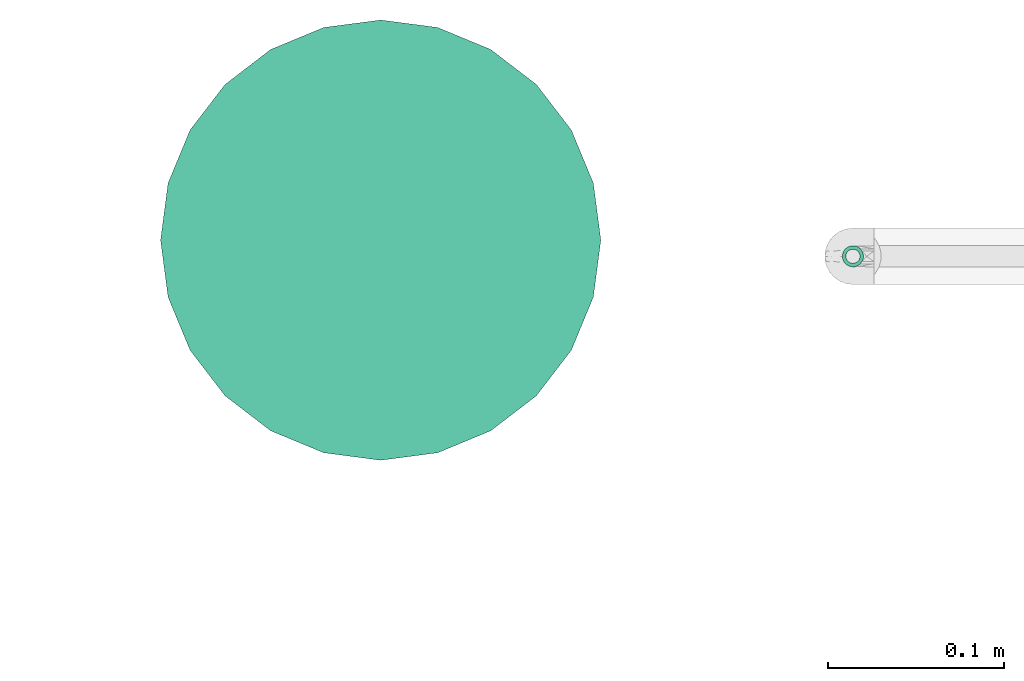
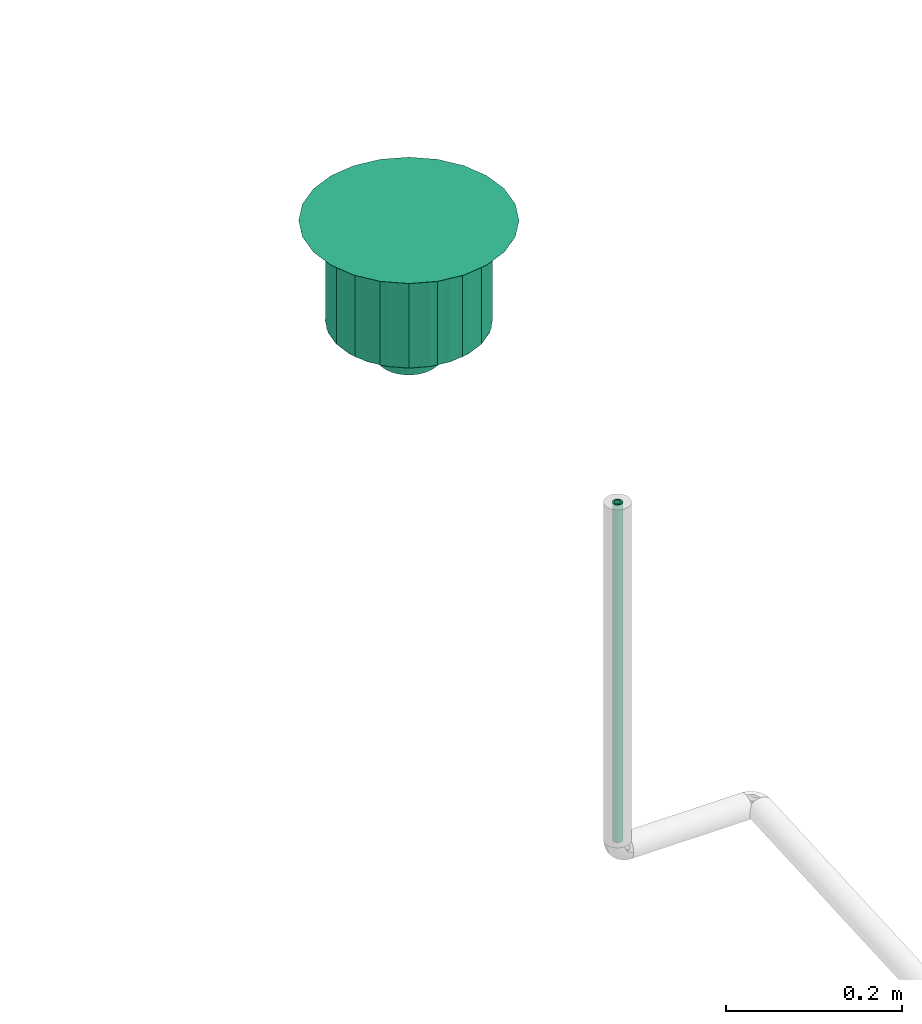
# One storey, part 60 of 108: 1 flow segment, 1 flow terminal.
"""IFC2X3 building model written with IfcOpenShell, lengths in millimetres."""

from ifc_helpers import new_model, entity, si_unit, converted_unit, derived_unit, direction, frame, origin_with_axes, origin_2d_with_axis, place, context, subcontext, project, spatial, hollow_circle, extrude, open_shell, surface_model, source, transform, mapped, type_object, element, save


model = new_model("IFC2X3")

# Units and contexts
model_context = context("Model", 3, precision=0.01, world=frame((0.0, 4.29681676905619e-09, 0.0)), true_north=direction((4.01073788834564e-13, 1.0)))
plan_context = context("Plan", 3, precision=0.01, world=frame((0.0, 4.29681676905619e-09, 0.0)), true_north=direction((4.01073788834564e-13, 1.0)))
body_context = subcontext(model_context, "Body", "Model", "MODEL_VIEW")
ifc_project = project(units=[converted_unit("PLANEANGLEUNIT", "DEGREE", entity("IfcPositiveLengthMeasure", 0.0174532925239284), si_unit("PLANEANGLEUNIT", "RADIAN"), dimensions=[0, 0, 0, 0, 0, 0, 0]), si_unit("AREAUNIT", "SQUARE_METRE"), si_unit("LENGTHUNIT", "METRE", prefix="MILLI"), si_unit("MASSUNIT", "GRAM", prefix="KILO"), si_unit("POWERUNIT", "WATT"), si_unit("PRESSUREUNIT", "PASCAL", prefix="KILO"), si_unit("FORCEUNIT", "NEWTON", prefix="KILO"), si_unit("ELECTRICVOLTAGEUNIT", "VOLT"), si_unit("ELECTRICCURRENTUNIT", "AMPERE"), si_unit("THERMODYNAMICTEMPERATUREUNIT", "DEGREE_CELSIUS"), si_unit("TIMEUNIT", "SECOND"), si_unit("VOLUMEUNIT", "CUBIC_METRE"), derived_unit("LINEARVELOCITYUNIT", [(si_unit("LENGTHUNIT", "METRE"), 1), (si_unit("TIMEUNIT", "SECOND"), -1)]), derived_unit("VOLUMETRICFLOWRATEUNIT", [(si_unit("VOLUMEUNIT", "CUBIC_METRE"), 1), (si_unit("TIMEUNIT", "SECOND"), -1)]), derived_unit("THERMALTRANSMITTANCEUNIT", [(si_unit("POWERUNIT", "WATT"), 1), (si_unit("THERMODYNAMICTEMPERATUREUNIT", "KELVIN"), -1), (si_unit("AREAUNIT", "SQUARE_METRE"), -1)]), derived_unit("SOUNDPRESSUREUNIT", [(si_unit("PRESSUREUNIT", "PASCAL"), 1)])], contexts=[model_context, plan_context])

# Site, building, storey
site_placement = place(None, frame((0.0, -4.29681676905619e-09, 0.0), z_axis=(0.0, 0.0, 1.0), x_axis=(1.0, 0.0, 0.0)))
site = spatial("IfcSite", under=ifc_project, at=site_placement, CompositionType="ELEMENT")
building_placement = place(site_placement, frame((0.0, 4.29681676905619e-09, 0.0), z_axis=(0.0, 0.0, 1.0), x_axis=(1.0, 0.0, 0.0)))
building = spatial("IfcBuilding", under=site, at=building_placement, Name="mc-building", CompositionType="ELEMENT")
storey_placement = place(building_placement, frame((0.0, 0.0, 210200.0), z_axis=(0.0, 0.0, 1.0), x_axis=(1.0, 0.0, 0.0)))
storey = spatial("IfcBuildingStorey", under=building, at=storey_placement, Name="Nivå F - 0,7 m", CompositionType="ELEMENT", Elevation=210200.0)

# Flow segment
pipe_segment_type = type_object("IfcPipeSegmentType", Name="Kobberrør", PredefinedType="RIGIDSEGMENT")
shared_shape_1 = source(origin_with_axes(), body_context, "Body", "SweptSolid", [
    extrude(hollow_circle(Radius=6.0, WallThickness=2.0, at=origin_2d_with_axis()), frame((0.0, 0.0, 0.0), z_axis=(1.0, 0.0, 0.0), x_axis=(0.0, 1.0, 0.0)), (0.0, 0.0, 1.0), 468.0),
])
flow_segment_placement = place(storey_placement, frame((341354.44567, 466090.75941, -936.073130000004), z_axis=(1.0, 0.0, 0.0), x_axis=(0.0, 0.0, 1.0)))
element("IfcFlowSegment", 1, at=flow_segment_placement, inside=storey, type_object=pipe_segment_type, Name="Kobberrør", context=body_context, shape_type="MappedRepresentation", body=[
    mapped(shared_shape_1, transform((0.0, 0.0, 0.0), scale=1.0)),
])

# Flow terminal
waste_terminal_type = type_object("IfcWasteTerminalType", Name="B21", PredefinedType="NOTDEFINED")
shared_shape_2 = source(origin_with_axes(), body_context, "Body", "SurfaceModel", [
    surface_model("IfcShellBasedSurfaceModel", [(24.58781, -91.76295, 0.1), (47.5, -82.27241, 0.1), (67.17514, -67.17514, 0.1), (-91.76295, -24.58781, 0.1), (82.27241, -47.5, 0.1), (91.76295, -24.58781, 0.1), (95.0, 0.0, 0.1), (0.0, -95.0, 0.1), (-47.5, -82.27241, 0.1), (-24.58781, -91.76295, 0.1), (-67.17514, -67.17514, 0.1), (-82.27241, -47.5, 0.1), (-91.76295, 24.58781, 0.1), (91.76295, 24.58781, 0.1), (82.27241, 47.5, 0.1), (67.17514, 67.17514, 0.1), (47.5, 82.27241, 0.1), (24.58781, 91.76295, 0.1), (0.0, 95.0, 0.1), (-67.17514, 67.17514, 0.1), (-82.27241, 47.5, 0.1), (-95.0, 0.0, 0.1), (-24.58781, 91.76295, 0.1), (-47.5, 82.27241, 0.1), (0.0, 95.0, -0.1), (24.58781, 91.76295, -0.1), (47.5, 82.27241, -0.1), (67.17514, 67.17514, -0.1), (82.27241, 47.5, -0.1), (91.76295, 24.58781, -0.1), (-24.58781, 91.76295, -0.1), (-67.17514, 67.17514, -0.1), (-47.5, 82.27241, -0.1), (-91.76295, 24.58781, -0.1), (-82.27241, 47.5, -0.1), (95.0, 0.0, -0.1), (67.17514, -67.17514, -0.1), (-95.0, 0.0, -0.1), (91.76295, -24.58781, -0.1), (82.27241, -47.5, -0.1), (47.5, -82.27241, -0.1), (24.58781, -91.76295, -0.1), (0.0, -95.0, -0.1), (-82.27241, -47.5, -0.1), (-91.76295, -24.58781, -0.1), (-67.17514, -67.17514, -0.1), (-47.5, -82.27241, -0.1), (-24.58781, -91.76295, -0.1), (-62.5, 108.25318, 0.1), (-88.38835, 88.38835, 0.1), (-32.35238, 120.74073, 0.1), (0.0, 125.0, 0.1), (-108.25318, 62.5, 0.1), (-120.74073, 32.35238, 0.1), (-125.0, 0.0, 0.1), (32.35238, 120.74073, 0.1), (88.38835, 88.38835, 0.1), (62.5, 108.25318, 0.1), (108.25318, 62.5, 0.1), (120.74073, 32.35238, 0.1), (125.0, 0.0, 0.1), (-120.74073, -32.35238, 0.1), (-108.25318, -62.5, 0.1), (-88.38835, -88.38835, 0.1), (-62.5, -108.25318, 0.1), (-32.35238, -120.74073, 0.1), (0.0, -125.0, 0.1), (108.25318, -62.5, 0.1), (88.38835, -88.38835, 0.1), (120.74073, -32.35238, 0.1), (32.35238, -120.74073, 0.1), (62.5, -108.25318, 0.1), (-62.5, -108.25318, -0.1), (-88.38835, -88.38835, -0.1), (-32.35238, -120.74073, -0.1), (0.0, -125.0, -0.1), (-108.25318, -62.5, -0.1), (-120.74073, -32.35238, -0.1), (-125.0, 0.0, -0.1), (32.35238, -120.74073, -0.1), (88.38835, -88.38835, -0.1), (62.5, -108.25318, -0.1), (108.25318, -62.5, -0.1), (120.74073, -32.35238, -0.1), (125.0, 0.0, -0.1), (-120.74073, 32.35238, -0.1), (-108.25318, 62.5, -0.1), (-88.38835, 88.38835, -0.1), (-62.5, 108.25318, -0.1), (-32.35238, 120.74073, -0.1), (0.0, 125.0, -0.1), (108.25318, 62.5, -0.1), (88.38835, 88.38835, -0.1), (120.74073, 32.35238, -0.1), (32.35238, 120.74073, -0.1), (62.5, 108.25318, -0.1), (24.58781, -91.76295, -137.9), (47.5, -82.27241, -137.9), (67.17514, -67.17514, -137.9), (-91.76295, -24.58781, -137.9), (82.27241, -47.5, -137.9), (91.76295, -24.58781, -137.9), (95.0, 0.0, -137.9), (0.0, -95.0, -137.9), (-47.5, -82.27241, -137.9), (-24.58781, -91.76295, -137.9), (-67.17514, -67.17514, -137.9), (-82.27241, -47.5, -137.9), (-91.76295, 24.58781, -137.9), (91.76295, 24.58781, -137.9), (82.27241, 47.5, -137.9), (67.17514, 67.17514, -137.9), (47.5, 82.27241, -137.9), (24.58781, 91.76295, -137.9), (0.0, 95.0, -137.9), (-67.17514, 67.17514, -137.9), (-82.27241, 47.5, -137.9), (-95.0, 0.0, -137.9), (-24.58781, 91.76295, -137.9), (-47.5, 82.27241, -137.9), (0.0, 95.0, -138.1), (24.58781, 91.76295, -138.1), (47.5, 82.27241, -138.1), (67.17514, 67.17514, -138.1), (82.27241, 47.5, -138.1), (91.76295, 24.58781, -138.1), (-24.58781, 91.76295, -138.1), (-67.17514, 67.17514, -138.1), (-47.5, 82.27241, -138.1), (-91.76295, 24.58781, -138.1), (-82.27241, 47.5, -138.1), (95.0, 0.0, -138.1), (67.17514, -67.17514, -138.1), (-95.0, 0.0, -138.1), (91.76295, -24.58781, -138.1), (82.27241, -47.5, -138.1), (47.5, -82.27241, -138.1), (24.58781, -91.76295, -138.1), (0.0, -95.0, -138.1), (-82.27241, -47.5, -138.1), (-91.76295, -24.58781, -138.1), (-67.17514, -67.17514, -138.1), (-47.5, -82.27241, -138.1), (-24.58781, -91.76295, -138.1), (-85.74428, -38.60004, 0.0), (-90.0094, -28.30311, 0.0), (-89.2708, -32.49191, 0.0), (-43.22826, 83.8272, 0.0), (-47.5, 82.27241, 0.0), (-47.4, 82.0992, 0.0), (-50.98236, 79.35037, 0.0), (-94.21061, 4.47683, 0.0), (-95.0, 0.0, 0.0), (-94.8, 0.0, 0.0), (-82.0992, -47.4, 0.0), (-76.30075, -54.9567, 0.0), (43.22826, 83.8272, 0.0), (47.4, 82.0992, 0.0), (47.5, 82.27241, 0.0), (50.98236, 79.35037, 0.0), (-20.49348, 92.10198, 0.0), (-9.44352, 93.55673, 0.0), (-16.49658, 93.55673, 0.0), (72.77422, 61.06482, 0.0), (69.51591, 63.79887, 0.0), (76.30075, 54.9567, 0.0), (82.0992, -47.4, 0.0), (85.74428, -38.60004, 0.0), (76.30075, -54.9567, 0.0), (94.21061, 4.47683, 0.0), (94.8, 0.0, 0.0), (95.0, 0.0, 0.0), (91.56976, -24.53605, 0.0), (94.21061, -4.47683, 0.0), (90.0094, -28.30311, 0.0), (-91.56976, -24.53605, 0.0), (-94.21061, -4.47683, 0.0), (-24.53605, -91.56976, 0.0), (-20.49348, -92.10198, 0.0), (-43.22826, -83.8272, 0.0), (-47.5, -82.27241, 0.0), (-47.4, -82.0992, 0.0), (-50.98236, -79.35037, 0.0), (9.44352, -93.55673, 0.0), (16.49658, -93.55673, 0.0), (20.49348, -92.10198, 0.0), (0.0, -94.8, 0.0), (-9.44352, -93.55673, 0.0), (-16.49658, -93.55673, 0.0), (-90.0094, 28.30311, 0.0), (-85.74428, 38.60004, 0.0), (-89.2708, 32.49191, 0.0), (67.03372, -67.03372, 0.0), (69.51591, -63.79887, 0.0), (50.98236, -79.35037, 0.0), (47.4, -82.0992, 0.0), (47.5, -82.27241, 0.0), (43.22826, -83.8272, 0.0), (24.53605, -91.56976, 0.0), (89.2708, -32.49191, 0.0), (-72.77422, -61.06482, 0.0), (-69.51591, -63.79887, 0.0), (-67.03372, -67.03372, 0.0), (72.77422, -61.06482, 0.0), (-91.56976, 24.53605, 0.0), (-82.0992, 47.4, 0.0), (-76.30075, 54.9567, 0.0), (-69.51591, 63.79887, 0.0), (-72.77422, 61.06482, 0.0), (-67.03372, 67.03372, 0.0), (-24.53605, 91.56976, 0.0), (0.0, 94.8, 0.0), (9.44352, 93.55673, 0.0), (20.49348, 92.10198, 0.0), (16.49658, 93.55673, 0.0), (24.53605, 91.56976, 0.0), (67.03372, 67.03372, 0.0), (82.0992, 47.4, 0.0), (85.74428, 38.60004, 0.0), (90.0094, 28.30311, 0.0), (89.2708, 32.49191, 0.0), (91.56976, 24.53605, 0.0), (85.74428, -38.60004, -138.0), (90.0094, -28.30311, -138.0), (89.2708, -32.49191, -138.0), (43.22826, 83.8272, -138.0), (47.5, 82.27241, -138.0), (47.4, 82.0992, -138.0), (89.2708, 32.49191, -138.0), (90.0094, 28.30311, -138.0), (85.74428, 38.60004, -138.0), (94.21061, 4.47683, -138.0), (95.0, 0.0, -138.0), (94.8, 0.0, -138.0), (50.98236, 79.35037, -138.0), (82.0992, -47.4, -138.0), (76.30075, -54.9567, -138.0), (-43.22826, 83.8272, -138.0), (-47.4, 82.0992, -138.0), (-47.5, 82.27241, -138.0), (-50.98236, 79.35037, -138.0), (9.44352, 93.55673, -138.0), (16.49658, 93.55673, -138.0), (20.49348, 92.10198, -138.0), (-69.51591, 63.79887, -138.0), (-76.30075, 54.9567, -138.0), (-72.77422, 61.06482, -138.0), (-82.0992, -47.4, -138.0), (-85.74428, -38.60004, -138.0), (-76.30075, -54.9567, -138.0), (-94.8, 0.0, -138.0), (-95.0, 0.0, -138.0), (-94.21061, 4.47683, -138.0), (-91.56976, -24.53605, -138.0), (-94.21061, -4.47683, -138.0), (-90.0094, -28.30311, -138.0), (91.56976, -24.53605, -138.0), (94.21061, -4.47683, -138.0), (-20.49348, -92.10198, -138.0), (-9.44352, -93.55673, -138.0), (-16.49658, -93.55673, -138.0), (24.53605, -91.56976, -138.0), (20.49348, -92.10198, -138.0), (43.22826, -83.8272, -138.0), (47.5, -82.27241, -138.0), (47.4, -82.0992, -138.0), (50.98236, -79.35037, -138.0), (72.77422, -61.06482, -138.0), (69.51591, -63.79887, -138.0), (0.0, -94.8, -138.0), (9.44352, -93.55673, -138.0), (16.49658, -93.55673, -138.0), (-67.03372, -67.03372, -138.0), (-69.51591, -63.79887, -138.0), (-50.98236, -79.35037, -138.0), (-47.4, -82.0992, -138.0), (-47.5, -82.27241, -138.0), (-89.2708, -32.49191, -138.0), (-43.22826, -83.8272, -138.0), (-24.53605, -91.56976, -138.0), (67.03372, -67.03372, -138.0), (-72.77422, -61.06482, -138.0), (91.56976, 24.53605, -138.0), (82.0992, 47.4, -138.0), (76.30075, 54.9567, -138.0), (69.51591, 63.79887, -138.0), (72.77422, 61.06482, -138.0), (67.03372, 67.03372, -138.0), (24.53605, 91.56976, -138.0), (0.0, 94.8, -138.0), (-9.44352, 93.55673, -138.0), (-20.49348, 92.10198, -138.0), (-16.49658, 93.55673, -138.0), (-24.53605, 91.56976, -138.0), (-67.03372, 67.03372, -138.0), (-82.0992, 47.4, -138.0), (-85.74428, 38.60004, -138.0), (-90.0094, 28.30311, -138.0), (-89.2708, 32.49191, -138.0), (-91.56976, 24.53605, -138.0), (18.75, -32.47595, -138.0), (26.5165, -26.5165, -138.0), (18.65, -32.30275, -138.0), (9.65395, -36.02903, -138.0), (0.0, -37.3, -138.0), (9.70571, -36.22222, -138.0), (0.0, -37.5, -138.0), (26.37508, -26.37508, -138.0), (36.22222, -9.70571, -138.0), (37.3, 0.0, -138.0), (36.02903, -9.65395, -138.0), (37.5, 0.0, -138.0), (32.47595, -18.75, -138.0), (32.30275, -18.65, -138.0), (-9.65395, -36.02903, -138.0), (-9.70571, -36.22222, -138.0), (-18.65, -32.30275, -138.0), (-26.5165, -26.5165, -138.0), (-18.75, -32.47595, -138.0), (-26.37508, -26.37508, -138.0), (-32.30275, -18.65, -138.0), (-32.47595, -18.75, -138.0), (-36.02903, -9.65395, -138.0), (-36.22222, -9.70571, -138.0), (-37.3, 0.0, -138.0), (-37.5, 0.0, -138.0), (36.22222, 9.70571, -138.0), (36.02903, 9.65395, -138.0), (32.30275, 18.65, -138.0), (32.47595, 18.75, -138.0), (26.37508, 26.37508, -138.0), (26.5165, 26.5165, -138.0), (18.75, 32.47595, -138.0), (18.65, 32.30275, -138.0), (9.65395, 36.02903, -138.0), (9.70571, 36.22222, -138.0), (0.0, 37.3, -138.0), (0.0, 37.5, -138.0), (-32.47595, 18.75, -138.0), (-32.30275, 18.65, -138.0), (-26.5165, 26.5165, -138.0), (-26.37508, 26.37508, -138.0), (-36.22222, 9.70571, -138.0), (-36.02903, 9.65395, -138.0), (-9.65395, 36.02903, -138.0), (-9.70571, 36.22222, -138.0), (-18.65, 32.30275, -138.0), (-18.75, 32.47595, -138.0), (18.75, 32.47595, -188.0), (26.5165, 26.5165, -188.0), (18.65, 32.30275, -188.0), (9.65395, 36.02903, -188.0), (0.0, 37.3, -188.0), (9.70571, 36.22222, -188.0), (0.0, 37.5, -188.0), (26.37508, 26.37508, -188.0), (36.22222, 9.70571, -188.0), (37.3, 0.0, -188.0), (36.02903, 9.65395, -188.0), (37.5, 0.0, -188.0), (32.47595, 18.75, -188.0), (32.30275, 18.65, -188.0), (-9.65395, 36.02903, -188.0), (-9.70571, 36.22222, -188.0), (-18.65, 32.30275, -188.0), (-26.5165, 26.5165, -188.0), (-18.75, 32.47595, -188.0), (-26.37508, 26.37508, -188.0), (-32.30275, 18.65, -188.0), (-32.47595, 18.75, -188.0), (-36.02903, 9.65395, -188.0), (-36.22222, 9.70571, -188.0), (-37.3, 0.0, -188.0), (-37.5, 0.0, -188.0), (36.22222, -9.70571, -188.0), (36.02903, -9.65395, -188.0), (32.30275, -18.65, -188.0), (32.47595, -18.75, -188.0), (26.37508, -26.37508, -188.0), (26.5165, -26.5165, -188.0), (18.75, -32.47595, -188.0), (18.65, -32.30275, -188.0), (9.65395, -36.02903, -188.0), (9.70571, -36.22222, -188.0), (0.0, -37.3, -188.0), (0.0, -37.5, -188.0), (-32.47595, -18.75, -188.0), (-32.30275, -18.65, -188.0), (-26.5165, -26.5165, -188.0), (-26.37508, -26.37508, -188.0), (-36.22222, -9.70571, -188.0), (-36.02903, -9.65395, -188.0), (-9.65395, -36.02903, -188.0), (-9.70571, -36.22222, -188.0), (-18.65, -32.30275, -188.0), (-18.75, -32.47595, -188.0)], [open_shell([[[0, 1, 2]], [[3, 0, 2]], [[4, 5, 6]], [[4, 6, 2]], [[3, 2, 6]], [[7, 8, 9]], [[8, 7, 10]], [[10, 3, 11]], [[10, 7, 0]], [[0, 3, 10]], [[6, 12, 3]], [[13, 14, 15]], [[13, 15, 16]], [[16, 17, 18]], [[13, 16, 12]], [[12, 16, 18]], [[12, 19, 20]], [[21, 3, 12]], [[19, 22, 23]], [[22, 19, 12]], [[18, 22, 12]], [[12, 6, 13]], [[24, 25, 26]], [[24, 26, 27]], [[27, 28, 29]], [[27, 29, 24]], [[24, 29, 30]], [[30, 31, 32]], [[30, 29, 31]], [[31, 33, 34]], [[31, 35, 33]], [[33, 36, 37]], [[35, 31, 29]], [[35, 38, 39]], [[35, 39, 36]], [[36, 40, 41]], [[41, 37, 36]], [[41, 42, 37]], [[37, 43, 44]], [[45, 43, 37]], [[46, 42, 47]], [[42, 46, 45]], [[42, 45, 37]], [[36, 33, 35]], [[44, 3, 37]], [[43, 11, 44]], [[8, 45, 46]], [[43, 45, 10]], [[9, 46, 47]], [[44, 11, 3]], [[3, 21, 37]], [[9, 8, 46]], [[10, 45, 8]], [[10, 11, 43]], [[7, 9, 47]], [[47, 42, 7]], [[41, 0, 42]], [[40, 1, 41]], [[4, 36, 39]], [[40, 36, 2]], [[5, 39, 38]], [[40, 2, 1]], [[1, 0, 41]], [[6, 5, 38]], [[4, 39, 5]], [[4, 2, 36]], [[35, 6, 38]], [[42, 0, 7]], [[29, 13, 35]], [[28, 14, 29]], [[16, 27, 26]], [[28, 27, 15]], [[17, 26, 25]], [[29, 14, 13]], [[13, 6, 35]], [[17, 16, 26]], [[15, 27, 16]], [[15, 14, 28]], [[18, 17, 25]], [[25, 24, 18]], [[30, 22, 24]], [[32, 23, 30]], [[32, 31, 19]], [[31, 34, 20]], [[32, 19, 23]], [[23, 22, 30]], [[33, 12, 20]], [[33, 37, 12]], [[37, 21, 12]], [[20, 19, 31]], [[20, 34, 33]], [[24, 22, 18]], [[48, 49, 23]], [[23, 49, 19]], [[48, 23, 22]], [[50, 22, 18]], [[22, 50, 48]], [[50, 18, 51]], [[12, 52, 53]], [[21, 53, 54]], [[12, 53, 21]], [[20, 19, 52]], [[12, 20, 52]], [[52, 19, 49]], [[51, 17, 55]], [[17, 51, 18]], [[55, 17, 16]], [[56, 57, 15]], [[16, 57, 55]], [[15, 57, 16]], [[14, 13, 58]], [[14, 58, 56]], [[13, 59, 58]], [[59, 13, 6]], [[59, 6, 60]], [[14, 56, 15]], [[3, 54, 61]], [[11, 61, 62]], [[11, 3, 61]], [[10, 11, 62]], [[62, 63, 10]], [[8, 63, 64]], [[63, 8, 10]], [[8, 64, 9]], [[9, 65, 7]], [[65, 9, 64]], [[7, 65, 66]], [[67, 4, 68]], [[5, 4, 69]], [[5, 69, 60]], [[69, 4, 67]], [[4, 2, 68]], [[60, 6, 5]], [[0, 66, 70]], [[66, 0, 7]], [[0, 70, 1]], [[71, 68, 2]], [[71, 1, 70]], [[71, 2, 1]], [[3, 21, 54]], [[72, 73, 46]], [[46, 73, 45]], [[72, 46, 47]], [[74, 47, 42]], [[47, 74, 72]], [[74, 42, 75]], [[44, 76, 77]], [[37, 77, 78]], [[44, 77, 37]], [[43, 45, 76]], [[44, 43, 76]], [[76, 45, 73]], [[75, 41, 79]], [[41, 75, 42]], [[79, 41, 40]], [[80, 81, 36]], [[40, 81, 79]], [[36, 81, 40]], [[39, 38, 82]], [[39, 82, 80]], [[38, 83, 82]], [[83, 38, 35]], [[83, 35, 84]], [[39, 80, 36]], [[33, 78, 85]], [[34, 85, 86]], [[34, 33, 85]], [[31, 34, 86]], [[86, 87, 31]], [[32, 87, 88]], [[87, 32, 31]], [[32, 88, 30]], [[30, 89, 24]], [[89, 30, 88]], [[24, 89, 90]], [[91, 28, 92]], [[29, 28, 93]], [[29, 93, 84]], [[93, 28, 91]], [[28, 27, 92]], [[84, 35, 29]], [[25, 90, 94]], [[90, 25, 24]], [[25, 94, 26]], [[95, 92, 27]], [[95, 26, 94]], [[95, 27, 26]], [[33, 37, 78]], [[21, 37, 12]], [[12, 33, 20]], [[23, 19, 31]], [[34, 19, 20]], [[22, 23, 32]], [[33, 34, 20]], [[12, 37, 33]], [[24, 18, 30]], [[22, 32, 30]], [[32, 23, 31]], [[19, 34, 31]], [[22, 30, 18]], [[17, 25, 16]], [[16, 26, 15]], [[13, 14, 28]], [[27, 14, 15]], [[6, 13, 29]], [[25, 26, 16]], [[17, 24, 25]], [[13, 28, 29]], [[28, 14, 27]], [[15, 26, 27]], [[6, 29, 35]], [[18, 24, 17]], [[6, 35, 5]], [[5, 38, 4]], [[1, 2, 36]], [[39, 2, 4]], [[0, 1, 40]], [[38, 39, 4]], [[5, 35, 38]], [[42, 7, 41]], [[0, 40, 41]], [[40, 1, 36]], [[2, 39, 36]], [[0, 41, 7]], [[9, 47, 8]], [[8, 46, 10]], [[37, 21, 3]], [[44, 3, 11]], [[10, 45, 11]], [[47, 46, 8]], [[9, 42, 47]], [[11, 45, 43]], [[37, 3, 44]], [[10, 46, 45]], [[43, 44, 11]], [[7, 42, 9]], [[77, 61, 78]], [[76, 62, 77]], [[64, 73, 72]], [[76, 73, 63]], [[65, 72, 74]], [[77, 62, 61]], [[61, 54, 78]], [[65, 64, 72]], [[63, 73, 64]], [[63, 62, 76]], [[66, 65, 74]], [[74, 75, 66]], [[79, 70, 75]], [[81, 71, 79]], [[67, 80, 82]], [[81, 80, 68]], [[69, 82, 83]], [[81, 68, 71]], [[71, 70, 79]], [[60, 69, 83]], [[67, 82, 69]], [[67, 68, 80]], [[84, 60, 83]], [[75, 70, 66]], [[93, 59, 84]], [[91, 58, 93]], [[57, 92, 95]], [[91, 92, 56]], [[55, 95, 94]], [[93, 58, 59]], [[59, 60, 84]], [[55, 57, 95]], [[56, 92, 57]], [[56, 58, 91]], [[51, 55, 94]], [[94, 90, 51]], [[50, 90, 89]], [[88, 48, 89]], [[52, 86, 85]], [[53, 85, 78]], [[88, 49, 48]], [[48, 50, 89]], [[87, 52, 49]], [[87, 86, 52]], [[52, 85, 53]], [[78, 54, 53]], [[87, 49, 88]], [[90, 50, 51]], [[96, 97, 98]], [[99, 96, 98]], [[100, 101, 102]], [[100, 102, 98]], [[99, 98, 102]], [[103, 104, 105]], [[104, 103, 106]], [[106, 99, 107]], [[106, 103, 96]], [[96, 99, 106]], [[102, 108, 99]], [[109, 110, 111]], [[109, 111, 112]], [[112, 113, 114]], [[109, 112, 108]], [[108, 112, 114]], [[108, 115, 116]], [[117, 99, 108]], [[115, 118, 119]], [[118, 115, 108]], [[114, 118, 108]], [[108, 102, 109]], [[120, 121, 122]], [[120, 122, 123]], [[123, 124, 125]], [[123, 125, 120]], [[120, 125, 126]], [[126, 127, 128]], [[126, 125, 127]], [[127, 129, 130]], [[127, 131, 129]], [[129, 132, 133]], [[131, 127, 125]], [[131, 134, 135]], [[131, 135, 132]], [[132, 136, 137]], [[137, 133, 132]], [[137, 138, 133]], [[133, 139, 140]], [[141, 139, 133]], [[142, 138, 143]], [[138, 142, 141]], [[138, 141, 133]], [[132, 129, 131]], [[140, 99, 133]], [[139, 107, 140]], [[104, 141, 142]], [[139, 141, 106]], [[105, 142, 143]], [[140, 107, 99]], [[99, 117, 133]], [[105, 104, 142]], [[106, 141, 104]], [[106, 107, 139]], [[103, 105, 143]], [[143, 138, 103]], [[137, 96, 138]], [[136, 97, 137]], [[100, 132, 135]], [[136, 132, 98]], [[101, 135, 134]], [[136, 98, 97]], [[97, 96, 137]], [[102, 101, 134]], [[100, 135, 101]], [[100, 98, 132]], [[131, 102, 134]], [[138, 96, 103]], [[125, 109, 131]], [[124, 110, 125]], [[112, 123, 122]], [[124, 123, 111]], [[113, 122, 121]], [[125, 110, 109]], [[109, 102, 131]], [[113, 112, 122]], [[111, 123, 112]], [[111, 110, 124]], [[114, 113, 121]], [[121, 120, 114]], [[126, 118, 120]], [[128, 119, 126]], [[128, 127, 115]], [[127, 130, 116]], [[128, 115, 119]], [[119, 118, 126]], [[129, 108, 116]], [[129, 133, 108]], [[133, 117, 108]], [[116, 115, 127]], [[116, 130, 129]], [[120, 118, 114]], [[144, 145, 146]], [[147, 148, 149]], [[149, 148, 150]], [[151, 152, 153]], [[154, 155, 144]], [[156, 157, 158]], [[157, 159, 158]], [[160, 161, 162]], [[163, 164, 165]], [[166, 167, 168]], [[169, 170, 171]], [[172, 173, 174]], [[175, 145, 176]], [[153, 152, 176]], [[177, 178, 179]], [[180, 181, 182]], [[183, 184, 185]], [[186, 183, 187]], [[187, 178, 188]], [[180, 179, 181]], [[189, 190, 191]], [[192, 193, 194]], [[171, 170, 173]], [[194, 195, 196]], [[195, 197, 196]], [[198, 197, 185]], [[199, 174, 167]], [[155, 200, 201]], [[202, 182, 201]], [[168, 193, 203]], [[204, 151, 189]], [[205, 190, 206]], [[206, 207, 208]], [[209, 207, 150]], [[210, 147, 160]], [[211, 161, 212]], [[212, 213, 214]], [[215, 213, 156]], [[216, 159, 164]], [[217, 165, 218]], [[218, 219, 220]], [[221, 219, 169]], [[222, 223, 224]], [[225, 226, 227]], [[228, 229, 230]], [[231, 232, 233]], [[226, 234, 227]], [[235, 236, 222]], [[237, 238, 239]], [[238, 240, 239]], [[241, 242, 243]], [[244, 245, 246]], [[247, 248, 249]], [[250, 251, 252]], [[253, 254, 255]], [[256, 223, 257]], [[257, 233, 232]], [[258, 259, 260]], [[261, 262, 263]], [[264, 265, 266]], [[236, 267, 268]], [[269, 259, 270]], [[263, 265, 264]], [[270, 262, 271]], [[272, 273, 274]], [[251, 250, 254]], [[274, 275, 276]], [[248, 277, 255]], [[275, 278, 276]], [[279, 278, 258]], [[280, 266, 268]], [[249, 273, 281]], [[282, 231, 229]], [[283, 230, 284]], [[284, 285, 286]], [[287, 285, 234]], [[288, 225, 243]], [[289, 241, 290]], [[290, 291, 292]], [[293, 291, 237]], [[294, 240, 244]], [[295, 245, 296]], [[296, 297, 298]], [[299, 297, 252]], [[152, 251, 277]], [[200, 281, 276]], [[277, 281, 146]], [[180, 276, 260]], [[152, 277, 146]], [[200, 146, 281]], [[276, 180, 200]], [[260, 188, 180]], [[260, 271, 188]], [[184, 271, 264]], [[203, 267, 224]], [[264, 267, 196]], [[199, 224, 232]], [[184, 264, 196]], [[203, 196, 267]], [[224, 199, 203]], [[232, 171, 199]], [[271, 184, 188]], [[171, 232, 228]], [[163, 286, 226]], [[228, 286, 220]], [[158, 226, 242]], [[171, 228, 220]], [[163, 220, 286]], [[226, 158, 163]], [[242, 214, 158]], [[242, 292, 214]], [[162, 292, 239]], [[208, 246, 298]], [[239, 246, 148]], [[191, 298, 251]], [[162, 239, 148]], [[208, 148, 246]], [[298, 191, 208]], [[251, 152, 191]], [[292, 162, 214]], [[247, 253, 175]], [[247, 154, 272]], [[279, 275, 181]], [[202, 275, 272]], [[269, 279, 177]], [[250, 153, 253]], [[153, 175, 253]], [[175, 154, 247]], [[154, 202, 272]], [[275, 202, 181]], [[181, 177, 279]], [[177, 186, 269]], [[265, 261, 198]], [[265, 195, 280]], [[256, 235, 166]], [[192, 235, 280]], [[233, 256, 172]], [[186, 198, 261]], [[198, 195, 265]], [[195, 192, 280]], [[192, 166, 235]], [[256, 166, 172]], [[172, 170, 233]], [[269, 186, 261]], [[283, 282, 221]], [[283, 217, 287]], [[288, 227, 157]], [[216, 227, 287]], [[289, 288, 215]], [[233, 170, 282]], [[170, 221, 282]], [[221, 217, 283]], [[217, 216, 287]], [[227, 216, 157]], [[157, 215, 288]], [[215, 211, 289]], [[238, 293, 210]], [[238, 149, 294]], [[299, 295, 205]], [[209, 295, 294]], [[250, 299, 204]], [[211, 210, 293]], [[210, 149, 238]], [[149, 209, 294]], [[209, 205, 295]], [[299, 205, 204]], [[204, 153, 250]], [[289, 211, 293]], [[300, 301, 302]], [[300, 302, 303]], [[304, 305, 303]], [[305, 304, 306]], [[303, 305, 300]], [[302, 301, 307]], [[308, 309, 310]], [[309, 308, 311]], [[308, 310, 312]], [[307, 312, 313]], [[312, 307, 301]], [[313, 312, 310]], [[306, 314, 315]], [[315, 314, 316]], [[317, 318, 319]], [[316, 318, 315]], [[316, 319, 318]], [[306, 304, 314]], [[320, 321, 317]], [[321, 320, 322]], [[320, 317, 319]], [[323, 322, 324]], [[322, 323, 321]], [[323, 324, 325]], [[311, 326, 327]], [[327, 326, 328]], [[328, 329, 330]], [[329, 328, 326]], [[330, 329, 331]], [[331, 332, 333]], [[333, 332, 334]], [[334, 335, 336]], [[335, 334, 332]], [[336, 335, 337]], [[333, 330, 331]], [[338, 339, 340]], [[340, 339, 341]], [[339, 338, 342]], [[325, 343, 342]], [[342, 343, 339]], [[325, 324, 343]], [[344, 337, 345]], [[344, 345, 346]], [[341, 347, 340]], [[341, 346, 347]], [[347, 346, 345]], [[336, 337, 344]], [[327, 309, 311]], [[348, 349, 350]], [[348, 350, 351]], [[352, 353, 351]], [[353, 352, 354]], [[351, 353, 348]], [[350, 349, 355]], [[356, 357, 358]], [[357, 356, 359]], [[356, 358, 360]], [[355, 360, 361]], [[360, 355, 349]], [[361, 360, 358]], [[354, 362, 363]], [[363, 362, 364]], [[365, 366, 367]], [[364, 366, 363]], [[364, 367, 366]], [[354, 352, 362]], [[368, 369, 365]], [[369, 368, 370]], [[368, 365, 367]], [[371, 370, 372]], [[370, 371, 369]], [[371, 372, 373]], [[359, 374, 375]], [[375, 374, 376]], [[376, 377, 378]], [[377, 376, 374]], [[378, 377, 379]], [[379, 380, 381]], [[381, 380, 382]], [[382, 383, 384]], [[383, 382, 380]], [[384, 383, 385]], [[381, 378, 379]], [[386, 387, 388]], [[388, 387, 389]], [[387, 386, 390]], [[373, 391, 390]], [[390, 391, 387]], [[373, 372, 391]], [[392, 385, 393]], [[392, 393, 394]], [[389, 395, 388]], [[389, 394, 395]], [[395, 394, 393]], [[384, 385, 392]], [[375, 357, 359]], [[321, 386, 388]], [[318, 395, 393]], [[388, 395, 317]], [[315, 393, 385]], [[373, 323, 325]], [[323, 373, 390]], [[323, 390, 321]], [[390, 386, 321]], [[388, 317, 321]], [[318, 317, 395]], [[393, 315, 318]], [[385, 306, 315]], [[305, 383, 380]], [[379, 300, 380]], [[312, 377, 374]], [[379, 377, 301]], [[308, 374, 359]], [[383, 305, 306]], [[380, 300, 305]], [[379, 301, 300]], [[377, 312, 301]], [[308, 312, 374]], [[359, 311, 308]], [[383, 306, 385]], [[356, 326, 359]], [[360, 329, 356]], [[353, 354, 335]], [[360, 349, 331]], [[356, 329, 326]], [[326, 311, 359]], [[332, 348, 335]], [[332, 331, 349]], [[348, 353, 335]], [[331, 329, 360]], [[349, 348, 332]], [[354, 337, 335]], [[345, 363, 366]], [[365, 347, 366]], [[338, 369, 371]], [[365, 369, 340]], [[342, 371, 373]], [[363, 345, 337]], [[366, 347, 345]], [[365, 340, 347]], [[369, 338, 340]], [[342, 338, 371]], [[373, 325, 342]], [[363, 337, 354]], [[389, 387, 320]], [[392, 394, 316]], [[319, 394, 389]], [[384, 392, 314]], [[324, 322, 372]], [[391, 372, 322]], [[320, 391, 322]], [[320, 387, 391]], [[320, 319, 389]], [[394, 319, 316]], [[316, 314, 392]], [[314, 304, 384]], [[381, 382, 303]], [[381, 302, 378]], [[375, 376, 313]], [[307, 376, 378]], [[357, 375, 310]], [[304, 303, 382]], [[303, 302, 381]], [[302, 307, 378]], [[307, 313, 376]], [[375, 313, 310]], [[310, 309, 357]], [[384, 304, 382]], [[357, 327, 358]], [[358, 328, 361]], [[334, 352, 351]], [[330, 355, 361]], [[327, 328, 358]], [[357, 309, 327]], [[334, 350, 333]], [[355, 330, 333]], [[334, 351, 350]], [[361, 328, 330]], [[333, 350, 355]], [[334, 336, 352]], [[364, 362, 344]], [[364, 346, 367]], [[370, 368, 339]], [[341, 368, 367]], [[372, 370, 343]], [[336, 344, 362]], [[344, 346, 364]], [[346, 341, 367]], [[341, 339, 368]], [[370, 339, 343]], [[343, 324, 372]], [[352, 336, 362]]])]),
])
flow_terminal_placement = place(storey_placement, frame((341086.29787, 466099.93633, 10.0), z_axis=(0.0, 0.0, 1.0), x_axis=(1.0, 0.0, 0.0)))
element("IfcFlowTerminal", 2, at=flow_terminal_placement, inside=storey, type_object=waste_terminal_type, Name="B21", context=body_context, shape_type="MappedRepresentation", body=[
    mapped(shared_shape_2, transform((0.0, 0.0, 0.0), scale=1.0)),
])

save(model, "model.ifc")
